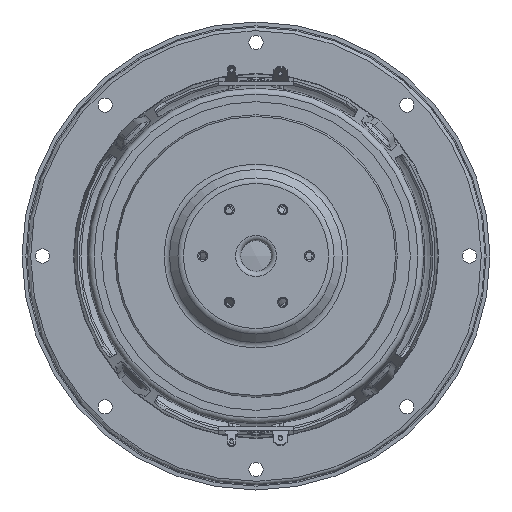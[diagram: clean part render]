
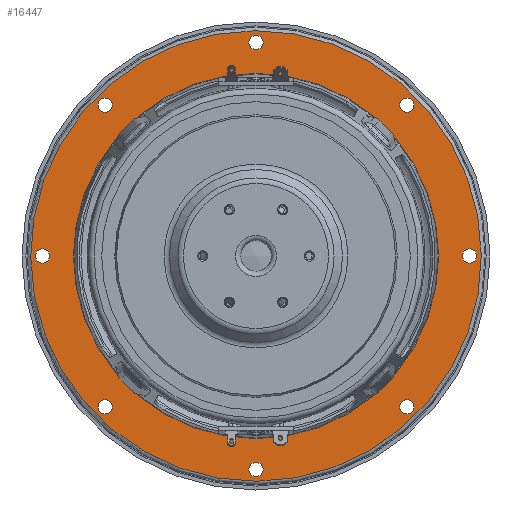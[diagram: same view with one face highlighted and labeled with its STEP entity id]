
A CAD part, front view. The second image highlights one B-rep face of the part: STEP entity #16447.
In plain terms, the highlighted planar face has unit normal (0, -1, 0).
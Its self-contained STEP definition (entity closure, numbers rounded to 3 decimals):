
#1043=FACE_BOUND('',#5221,.T.);
#1044=FACE_BOUND('',#5222,.T.);
#1045=FACE_BOUND('',#5223,.T.);
#1046=FACE_BOUND('',#5224,.T.);
#1047=FACE_BOUND('',#5225,.T.);
#1048=FACE_BOUND('',#5226,.T.);
#1049=FACE_BOUND('',#5227,.T.);
#1050=FACE_BOUND('',#5228,.T.);
#1051=FACE_BOUND('',#5229,.T.);
#4190=FACE_OUTER_BOUND('',#5220,.T.);
#5220=EDGE_LOOP('',(#14537));
#5221=EDGE_LOOP('',(#14538));
#5222=EDGE_LOOP('',(#14539));
#5223=EDGE_LOOP('',(#14540));
#5224=EDGE_LOOP('',(#14541));
#5225=EDGE_LOOP('',(#14542));
#5226=EDGE_LOOP('',(#14543));
#5227=EDGE_LOOP('',(#14544));
#5228=EDGE_LOOP('',(#14545));
#5229=EDGE_LOOP('',(#14546));
#5538=CIRCLE('',#16956,2.75);
#5540=CIRCLE('',#16959,2.75);
#5542=CIRCLE('',#16962,2.75);
#5875=CIRCLE('',#17618,87.61);
#5878=CIRCLE('',#17622,2.75);
#5880=CIRCLE('',#17625,2.75);
#5882=CIRCLE('',#17628,2.75);
#5884=CIRCLE('',#17631,2.75);
#6127=CIRCLE('',#18009,2.75);
#6128=CIRCLE('',#18011,71.);
#6687=VERTEX_POINT('',#24293);
#6689=VERTEX_POINT('',#24299);
#6691=VERTEX_POINT('',#24305);
#7370=VERTEX_POINT('',#40863);
#7372=VERTEX_POINT('',#40869);
#7374=VERTEX_POINT('',#40875);
#7376=VERTEX_POINT('',#40881);
#7378=VERTEX_POINT('',#40887);
#7731=VERTEX_POINT('',#56056);
#7732=VERTEX_POINT('',#56060);
#8445=EDGE_CURVE('',#6687,#6687,#5538,.T.);
#8448=EDGE_CURVE('',#6689,#6689,#5540,.T.);
#8451=EDGE_CURVE('',#6691,#6691,#5542,.T.);
#9520=EDGE_CURVE('',#7370,#7370,#5875,.T.);
#9524=EDGE_CURVE('',#7372,#7372,#5878,.T.);
#9527=EDGE_CURVE('',#7374,#7374,#5880,.T.);
#9530=EDGE_CURVE('',#7376,#7376,#5882,.T.);
#9533=EDGE_CURVE('',#7378,#7378,#5884,.T.);
#10102=EDGE_CURVE('',#7731,#7731,#6127,.T.);
#10103=EDGE_CURVE('',#7732,#7732,#6128,.T.);
#14537=ORIENTED_EDGE('',*,*,#9520,.T.);
#14538=ORIENTED_EDGE('',*,*,#9524,.F.);
#14539=ORIENTED_EDGE('',*,*,#10103,.F.);
#14540=ORIENTED_EDGE('',*,*,#10102,.T.);
#14541=ORIENTED_EDGE('',*,*,#8451,.T.);
#14542=ORIENTED_EDGE('',*,*,#8448,.T.);
#14543=ORIENTED_EDGE('',*,*,#8445,.T.);
#14544=ORIENTED_EDGE('',*,*,#9527,.F.);
#14545=ORIENTED_EDGE('',*,*,#9530,.F.);
#14546=ORIENTED_EDGE('',*,*,#9533,.F.);
#15583=PLANE('',#18010);
#16447=ADVANCED_FACE('',(#4190,#1043,#1044,#1045,#1046,#1047,#1048,#1049,
#1050,#1051),#15583,.T.);
#16956=AXIS2_PLACEMENT_3D('',#24295,#19413,#19414);
#16959=AXIS2_PLACEMENT_3D('',#24301,#19420,#19421);
#16962=AXIS2_PLACEMENT_3D('',#24307,#19427,#19428);
#17618=AXIS2_PLACEMENT_3D('',#40864,#21213,#21214);
#17622=AXIS2_PLACEMENT_3D('',#40871,#21222,#21223);
#17625=AXIS2_PLACEMENT_3D('',#40877,#21229,#21230);
#17628=AXIS2_PLACEMENT_3D('',#40883,#21236,#21237);
#17631=AXIS2_PLACEMENT_3D('',#40889,#21243,#21244);
#18009=AXIS2_PLACEMENT_3D('',#56058,#22128,#22129);
#18010=AXIS2_PLACEMENT_3D('',#56059,#22130,#22131);
#18011=AXIS2_PLACEMENT_3D('',#56061,#22132,#22133);
#19413=DIRECTION('center_axis',(0.,1.,0.));
#19414=DIRECTION('ref_axis',(0.,0.,1.));
#19420=DIRECTION('center_axis',(0.,1.,0.));
#19421=DIRECTION('ref_axis',(-0.707,0.,0.707));
#19427=DIRECTION('center_axis',(0.,1.,0.));
#19428=DIRECTION('ref_axis',(-1.,0.,0.));
#21213=DIRECTION('center_axis',(0.,-1.,0.));
#21214=DIRECTION('ref_axis',(0.,0.,-1.));
#21222=DIRECTION('center_axis',(0.,-1.,0.));
#21223=DIRECTION('ref_axis',(0.707,0.,-0.707));
#21229=DIRECTION('center_axis',(0.,-1.,0.));
#21230=DIRECTION('ref_axis',(0.,0.,-1.));
#21236=DIRECTION('center_axis',(0.,-1.,0.));
#21237=DIRECTION('ref_axis',(-0.707,0.,-0.707));
#21243=DIRECTION('center_axis',(0.,-1.,0.));
#21244=DIRECTION('ref_axis',(-1.,0.,0.));
#22128=DIRECTION('center_axis',(0.,1.,0.));
#22129=DIRECTION('ref_axis',(-0.707,0.,-0.707));
#22130=DIRECTION('center_axis',(0.,-1.,0.));
#22131=DIRECTION('ref_axis',(0.,0.,-1.));
#22132=DIRECTION('center_axis',(0.,-1.,0.));
#22133=DIRECTION('ref_axis',(0.,0.,-1.));
#24293=CARTESIAN_POINT('',(58.69,8.419,55.94));
#24295=CARTESIAN_POINT('Origin',(58.69,8.419,58.69));
#24299=CARTESIAN_POINT('',(1.945,8.419,81.055));
#24301=CARTESIAN_POINT('Origin',(0.,8.419,
83.));
#24305=CARTESIAN_POINT('',(-55.94,8.419,58.69));
#24307=CARTESIAN_POINT('Origin',(-58.69,8.419,58.69));
#40863=CARTESIAN_POINT('',(0.38,8.419,-87.609));
#40864=CARTESIAN_POINT('Origin',(0.,8.419,0.));
#40869=CARTESIAN_POINT('',(81.055,8.419,1.945));
#40871=CARTESIAN_POINT('Origin',(83.,8.419,0.));
#40875=CARTESIAN_POINT('',(58.69,8.419,-55.94));
#40877=CARTESIAN_POINT('Origin',(58.69,8.419,-58.69));
#40881=CARTESIAN_POINT('',(1.945,8.419,-81.055));
#40883=CARTESIAN_POINT('Origin',(0.,8.419,
-83.));
#40887=CARTESIAN_POINT('',(-55.94,8.419,-58.69));
#40889=CARTESIAN_POINT('Origin',(-58.69,8.419,-58.69));
#56056=CARTESIAN_POINT('',(-81.055,8.419,-1.945));
#56058=CARTESIAN_POINT('Origin',(-83.,8.419,0.));
#56059=CARTESIAN_POINT('Origin',(0.,8.419,0.));
#56060=CARTESIAN_POINT('',(0.,8.419,71.));
#56061=CARTESIAN_POINT('Origin',(0.,8.419,0.));
